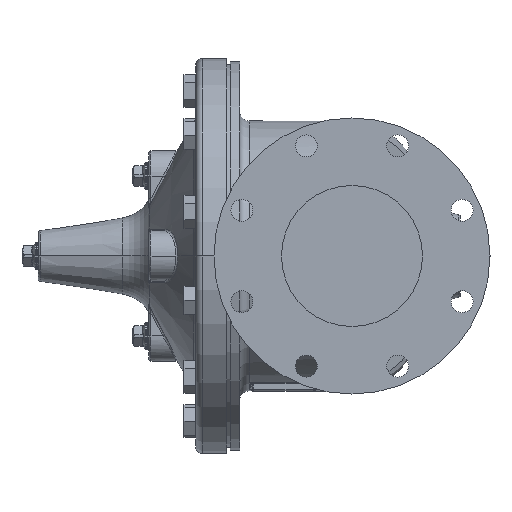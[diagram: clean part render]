
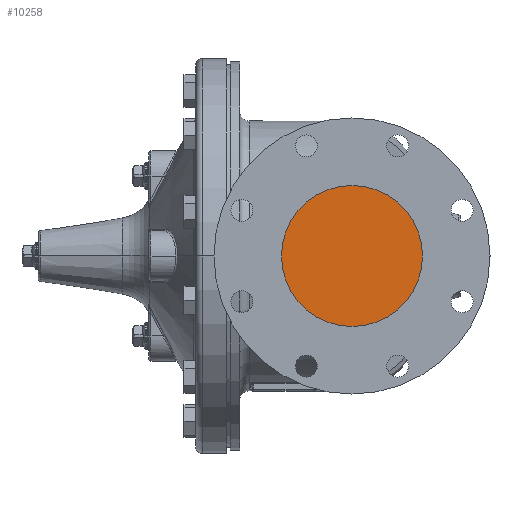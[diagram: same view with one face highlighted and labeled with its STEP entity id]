
A CAD part, left-side view. The second image highlights one B-rep face of the part: STEP entity #10258.
In plain terms, the highlighted planar face has unit normal (-1, 0, 0).
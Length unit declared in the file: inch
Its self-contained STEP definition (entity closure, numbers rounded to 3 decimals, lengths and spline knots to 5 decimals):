
#374 = CARTESIAN_POINT ( 'NONE',  ( -5., 3.15891, 0. ) ) ;
#728 = AXIS2_PLACEMENT_3D ( 'NONE', #15832, #9241, #7227 ) ;
#1000 = DIRECTION ( 'NONE',  ( 1., 0., 0. ) ) ;
#7227 = DIRECTION ( 'NONE',  ( 0., 1., 0. ) ) ;
#9241 = DIRECTION ( 'NONE',  ( 1., 0., 0. ) ) ;
#9637 = CIRCLE ( 'NONE', #21552, 3.15891 ) ;
#10258 = ADVANCED_FACE ( 'NONE', ( #22707 ), #18677, .F. ) ;
#13124 = CIRCLE ( 'NONE', #728, 3.15891 ) ;
#15589 = CARTESIAN_POINT ( 'NONE',  ( -5., -3.15891, 0. ) ) ;
#15832 = CARTESIAN_POINT ( 'NONE',  ( -5., 0., 0. ) ) ;
#17227 = EDGE_CURVE ( 'NONE', #27321, #28141, #13124, .T. ) ;
#18677 = PLANE ( 'NONE',  #20073 ) ;
#20073 = AXIS2_PLACEMENT_3D ( 'NONE', #20541, #1000, #25287 ) ;
#20356 = CARTESIAN_POINT ( 'NONE',  ( -5., 0., 0. ) ) ;
#20541 = CARTESIAN_POINT ( 'NONE',  ( -5., 0., 0. ) ) ;
#20866 = ORIENTED_EDGE ( 'NONE', *, *, #23189, .F. ) ;
#21552 = AXIS2_PLACEMENT_3D ( 'NONE', #20356, #24382, #24811 ) ;
#22013 = ORIENTED_EDGE ( 'NONE', *, *, #17227, .F. ) ;
#22707 = FACE_OUTER_BOUND ( 'NONE', #26680, .T. ) ;
#23189 = EDGE_CURVE ( 'NONE', #28141, #27321, #9637, .T. ) ;
#24382 = DIRECTION ( 'NONE',  ( 1., 0., 0. ) ) ;
#24811 = DIRECTION ( 'NONE',  ( 0., 1., 0. ) ) ;
#25287 = DIRECTION ( 'NONE',  ( 0., 1., 0. ) ) ;
#26680 = EDGE_LOOP ( 'NONE', ( #20866, #22013 ) ) ;
#27321 = VERTEX_POINT ( 'NONE', #15589 ) ;
#28141 = VERTEX_POINT ( 'NONE', #374 ) ;
